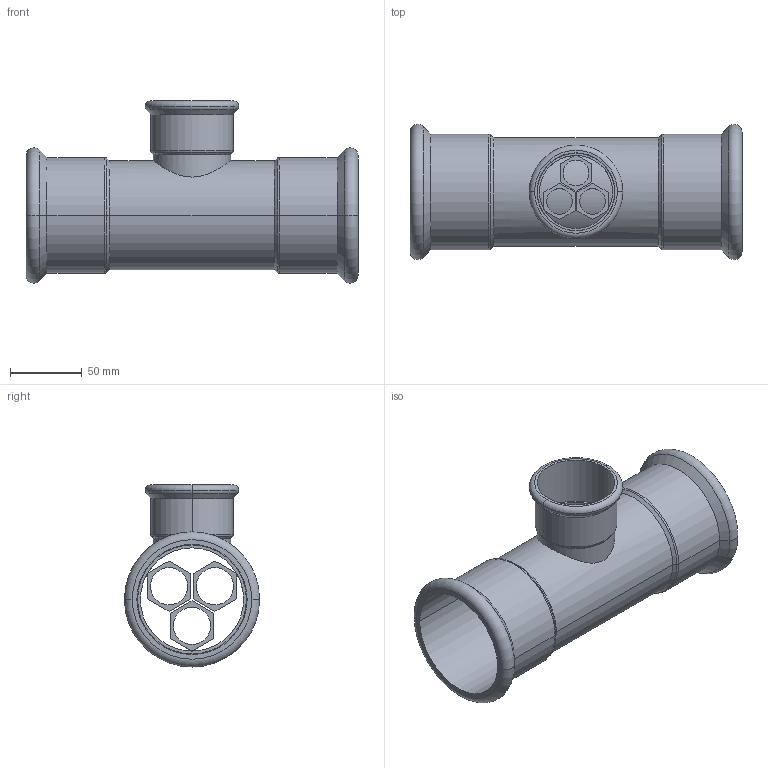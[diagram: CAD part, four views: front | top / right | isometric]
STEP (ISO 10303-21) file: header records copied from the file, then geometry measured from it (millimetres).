
FILE_DESCRIPTION(('OneSpaceDesigner STEP Export'),'2;1');
FILE_NAME('R2715 76x54x76.stp','2010-06-10T 9:28:23',(''),(''),'OneSpace Designer STEP processor for AP214 (Solid Model)','OneSpace Modeling 15.00A 14-Mar-2007 (C) CoCreate Software GmbH','');
FILE_SCHEMA(('AUTOMOTIVE_DESIGN { 1 0 10303 214 1 1 1 1 }'));
Length unit declared in the file: millimetre
Products named in the file (2): R2715_76x54x76
Assembly tree (1 placements, depth 2):
  R2715_76x54x76
    R2715_76x54x76
Bounding box: 232 x 94.48 x 127.24 mm (x, y, z)
Volume: 174042.4 mm3; surface area: 145758.1 mm2
Topology: 1 solids, 1 shells, 170 faces, 424 edges, 273 vertices
Faces by surface type: plane 90, cylinder 54, torus 14, cone 12
Entity records: 5791 total; most frequent: CARTESIAN_POINT 2062, ORIENTED_EDGE 848, DIRECTION 643, EDGE_CURVE 424, VERTEX_POINT 273, VECTOR 263, LINE 263, EDGE_LOOP 207
